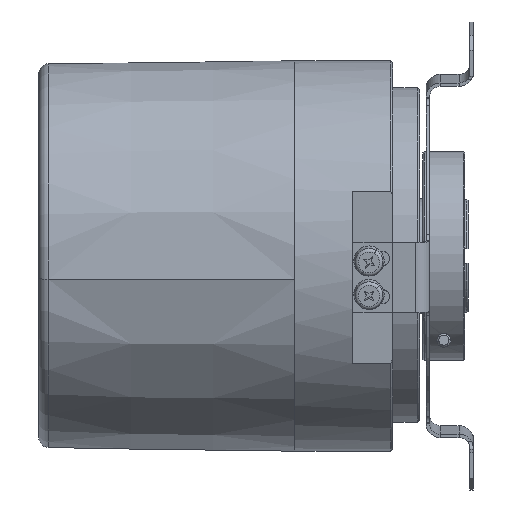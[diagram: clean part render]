
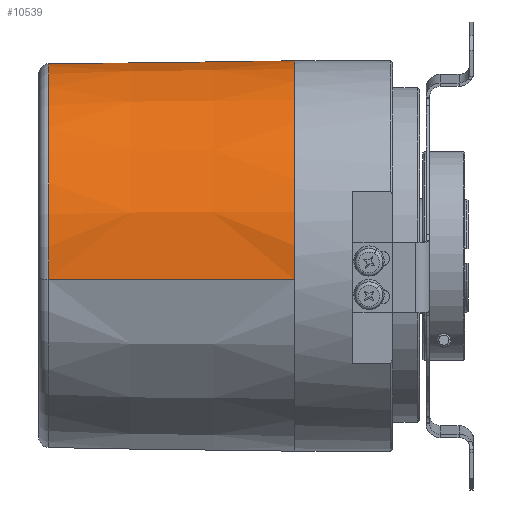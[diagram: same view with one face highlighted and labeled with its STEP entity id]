
A CAD part, front view. The second image highlights one B-rep face of the part: STEP entity #10539.
In plain terms, the highlighted conical face has half-angle 0.75 degrees and reference radius 29 mm.
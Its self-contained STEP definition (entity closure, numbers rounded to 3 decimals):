
#1252 = ORIENTED_EDGE ( 'NONE', *, *, #21530, .F. ) ;
#1253 = ORIENTED_EDGE ( 'NONE', *, *, #30489, .T. ) ;
#1254 = ORIENTED_EDGE ( 'NONE', *, *, #21750, .F. ) ;
#1255 = ORIENTED_EDGE ( 'NONE', *, *, #21751, .T. ) ;
#1256 = ORIENTED_EDGE ( 'NONE', *, *, #21494, .T. ) ;
#1257 = ORIENTED_EDGE ( 'NONE', *, *, #21532, .T. ) ;
#1258 = ORIENTED_EDGE ( 'NONE', *, *, #21748, .T. ) ;
#3467 = AXIS2_PLACEMENT_3D ( 'NONE', #19350, #19349, #19342 ) ;
#4122 = AXIS2_PLACEMENT_3D ( 'NONE', #11014, #11016, #11018 ) ;
#4183 = AXIS2_PLACEMENT_3D ( 'NONE', #11729, #11730, #11731 ) ;
#4575 = AXIS2_PLACEMENT_3D ( 'NONE', #27941, #27942, #27943 ) ;
#4967 = CIRCLE ( 'NONE', #4122, 28.522 ) ;
#5001 = LINE ( 'NONE', #11148, #5004 ) ;
#5004 = VECTOR ( 'NONE', #11153, 1000. ) ;
#5005 = LINE ( 'NONE', #11151, #5007 ) ;
#5007 = VECTOR ( 'NONE', #11135, 1000. ) ;
#5099 = CIRCLE ( 'NONE', #4183, 29. ) ;
#10539 = ADVANCED_FACE ( 'NONE', ( #25896 ), #25903, .T. ) ;
#11014 = CARTESIAN_POINT ( 'NONE',  ( -29.02, 0., 0. ) ) ;
#11016 = DIRECTION ( 'NONE',  ( 1., 0., 0. ) ) ;
#11018 = DIRECTION ( 'NONE',  ( 0., 0.993, 0.122 ) ) ;
#11135 = DIRECTION ( 'NONE',  ( 1., -0.013, -0.002 ) ) ;
#11148 = CARTESIAN_POINT ( 'NONE',  ( 7.5, 28.784, 3.534 ) ) ;
#11151 = CARTESIAN_POINT ( 'NONE',  ( 7.5, -28.784, -3.534 ) ) ;
#11153 = DIRECTION ( 'NONE',  ( 1., 0.013, 0.002 ) ) ;
#11722 = CARTESIAN_POINT ( 'NONE',  ( -5.48, 22.134, 18.473 ) ) ;
#11723 = CARTESIAN_POINT ( 'NONE',  ( -6.48, 22.116, 18.474 ) ) ;
#11727 = CARTESIAN_POINT ( 'NONE',  ( -5.258, 22.138, 18.473 ) ) ;
#11728 = CARTESIAN_POINT ( 'NONE',  ( -5.038, 22.162, 18.448 ) ) ;
#11729 = CARTESIAN_POINT ( 'NONE',  ( 7.5, 0., 0. ) ) ;
#11730 = DIRECTION ( 'NONE',  ( -1., 0., 0. ) ) ;
#11731 = DIRECTION ( 'NONE',  ( 0., 0.993, 0.122 ) ) ;
#11732 = CARTESIAN_POINT ( 'NONE',  ( -5.48, 22.134, 18.473 ) ) ;
#11733 = CARTESIAN_POINT ( 'NONE',  ( -4.617, 22.247, 18.355 ) ) ;
#11734 = CARTESIAN_POINT ( 'NONE',  ( -4.417, 22.307, 18.287 ) ) ;
#11735 = CARTESIAN_POINT ( 'NONE',  ( -4.037, 22.454, 18.113 ) ) ;
#11736 = CARTESIAN_POINT ( 'NONE',  ( -3.864, 22.54, 18.01 ) ) ;
#11737 = CARTESIAN_POINT ( 'NONE',  ( -3.545, 22.729, 17.777 ) ) ;
#11738 = CARTESIAN_POINT ( 'NONE',  ( -3.399, 22.834, 17.646 ) ) ;
#11739 = CARTESIAN_POINT ( 'NONE',  ( -3.141, 23.051, 17.368 ) ) ;
#11740 = CARTESIAN_POINT ( 'NONE',  ( -3.029, 23.163, 17.22 ) ) ;
#11741 = CARTESIAN_POINT ( 'NONE',  ( -2.834, 23.395, 16.909 ) ) ;
#11742 = CARTESIAN_POINT ( 'NONE',  ( -2.75, 23.515, 16.743 ) ) ;
#11743 = CARTESIAN_POINT ( 'NONE',  ( -2.549, 23.877, 16.231 ) ) ;
#11744 = CARTESIAN_POINT ( 'NONE',  ( -2.48, 24.117, 15.875 ) ) ;
#11745 = CARTESIAN_POINT ( 'NONE',  ( -2.48, 24.354, 15.503 ) ) ;
#11748 = CARTESIAN_POINT ( 'NONE',  ( -7.48, 22.099, 18.474 ) ) ;
#11749 = CARTESIAN_POINT ( 'NONE',  ( -8.48, 22.082, 18.475 ) ) ;
#11750 = CARTESIAN_POINT ( 'NONE',  ( -12.479, 22.012, 18.477 ) ) ;
#11751 = CARTESIAN_POINT ( 'NONE',  ( -16.479, 21.942, 18.478 ) ) ;
#11752 = CARTESIAN_POINT ( 'NONE',  ( -20.478, 21.872, 18.48 ) ) ;
#11753 = CARTESIAN_POINT ( 'NONE',  ( -23.325, 21.822, 18.482 ) ) ;
#11754 = CARTESIAN_POINT ( 'NONE',  ( -26.172, 21.772, 18.483 ) ) ;
#11755 = CARTESIAN_POINT ( 'NONE',  ( -29.02, 21.722, 18.484 ) ) ;
#12741 = B_SPLINE_CURVE_WITH_KNOTS ( 'NONE', 3,
 ( #11722, #11723, #11748, #11749, #11750, #11751, #11752, #11753, #11754, #11755 ),
 .UNSPECIFIED., .F., .F.,
 ( 4, 3, 3, 4 ),
 ( 0., 0.003, 0.015, 0.024 ),
 .UNSPECIFIED. ) ;
#12743 = B_SPLINE_CURVE_WITH_KNOTS ( 'NONE', 3,
 ( #11732, #11727, #11728, #11733, #11734, #11735, #11736, #11737, #11738, #11739, #11740, #11741, #11742, #11743, #11744, #11745 ),
 .UNSPECIFIED., .F., .F.,
 ( 4, 2, 2, 2, 2, 2, 2, 4 ),
 ( 0., 0.001, 0.001, 0.002, 0.003, 0.003, 0.004, 0.005 ),
 .UNSPECIFIED. ) ;
#14365 = CARTESIAN_POINT ( 'NONE',  ( -2.48, 28.654, 3.518 ) ) ;
#14387 = CARTESIAN_POINT ( 'NONE',  ( -2.48, 24.354, 15.503 ) ) ;
#19342 = DIRECTION ( 'NONE',  ( 0., -0.993, -0.122 ) ) ;
#19349 = DIRECTION ( 'NONE',  ( 1., 0., 0. ) ) ;
#19350 = CARTESIAN_POINT ( 'NONE',  ( 7.5, 0., 0. ) ) ;
#21494 = EDGE_CURVE ( 'NONE', #34019, #34021, #4967, .T. ) ;
#21530 = EDGE_CURVE ( 'NONE', #23618, #34045, #5001, .T. ) ;
#21532 = EDGE_CURVE ( 'NONE', #34021, #34049, #5005, .T. ) ;
#21748 = EDGE_CURVE ( 'NONE', #34049, #34045, #5099, .T. ) ;
#21750 = EDGE_CURVE ( 'NONE', #34187, #23640, #12743, .T. ) ;
#21751 = EDGE_CURVE ( 'NONE', #34187, #34019, #12741, .T. ) ;
#23371 = CARTESIAN_POINT ( 'NONE',  ( -29.02, 21.722, 18.484 ) ) ;
#23372 = CARTESIAN_POINT ( 'NONE',  ( -29.02, -28.309, -3.476 ) ) ;
#23382 = CARTESIAN_POINT ( 'NONE',  ( 7.5, 28.784, 3.534 ) ) ;
#23384 = CARTESIAN_POINT ( 'NONE',  ( 7.5, -28.784, -3.534 ) ) ;
#23441 = CARTESIAN_POINT ( 'NONE',  ( -5.48, 22.134, 18.473 ) ) ;
#23618 = VERTEX_POINT ( 'NONE', #14365 ) ;
#23640 = VERTEX_POINT ( 'NONE', #14387 ) ;
#24378 = EDGE_LOOP ( 'NONE', ( #1252, #1253, #1254, #1255, #1256, #1257, #1258 ) ) ;
#25896 = FACE_OUTER_BOUND ( 'NONE', #24378, .T. ) ;
#25903 = CONICAL_SURFACE ( 'NONE', #3467, 29., 0.013 ) ;
#26694 = CIRCLE ( 'NONE', #4575, 28.869 ) ;
#27941 = CARTESIAN_POINT ( 'NONE',  ( -2.48, 0., 0. ) ) ;
#27942 = DIRECTION ( 'NONE',  ( 1., 0., 0. ) ) ;
#27943 = DIRECTION ( 'NONE',  ( 0., 0.993, 0.122 ) ) ;
#30489 = EDGE_CURVE ( 'NONE', #23618, #23640, #26694, .T. ) ;
#34019 = VERTEX_POINT ( 'NONE', #23371 ) ;
#34021 = VERTEX_POINT ( 'NONE', #23372 ) ;
#34045 = VERTEX_POINT ( 'NONE', #23382 ) ;
#34049 = VERTEX_POINT ( 'NONE', #23384 ) ;
#34187 = VERTEX_POINT ( 'NONE', #23441 ) ;
